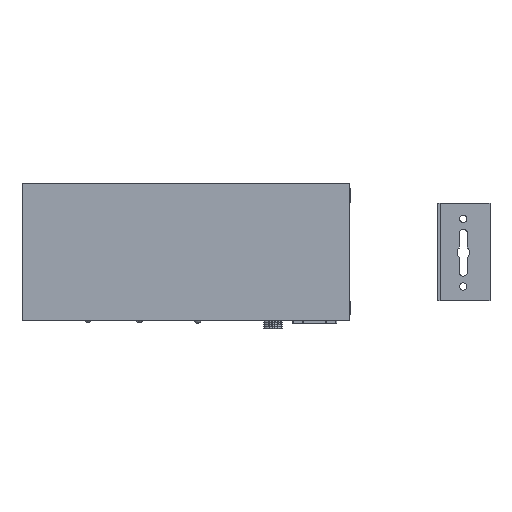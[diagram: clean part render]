
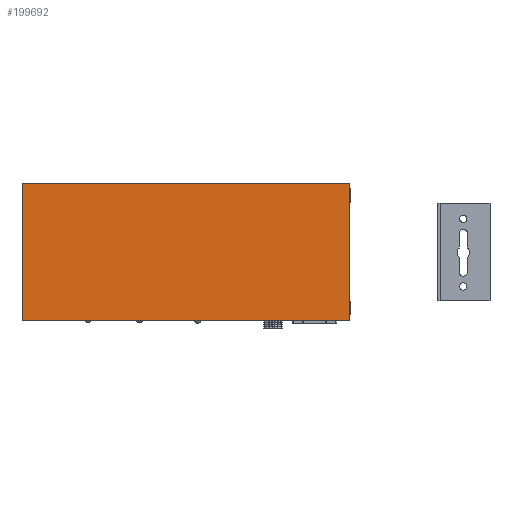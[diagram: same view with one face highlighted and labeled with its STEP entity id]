
A CAD part, top view. The second image highlights one B-rep face of the part: STEP entity #199692.
In plain terms, the highlighted planar face has unit normal (0, 0, 1).
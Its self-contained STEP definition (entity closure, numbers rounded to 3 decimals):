
#2731 = PLANE('',#2732);
#2732 = AXIS2_PLACEMENT_3D('',#2733,#2734,#2735);
#2733 = CARTESIAN_POINT('',(0.,0.,0.));
#2734 = DIRECTION('',(1.,0.,0.));
#2735 = DIRECTION('',(0.,0.,1.));
#4915 = PLANE('',#4916);
#4916 = AXIS2_PLACEMENT_3D('',#4917,#4918,#4919);
#4917 = CARTESIAN_POINT('',(134.1,0.,0.));
#4918 = DIRECTION('',(1.,0.,0.));
#4919 = DIRECTION('',(0.,0.,1.));
#56382 = PLANE('',#56383);
#56383 = AXIS2_PLACEMENT_3D('',#56384,#56385,#56386);
#56384 = CARTESIAN_POINT('',(67.05,0.,13.5));
#56385 = DIRECTION('',(-0.,-1.,-0.));
#56386 = DIRECTION('',(0.,0.,-1.));
#146020 = PLANE('',#146021);
#146021 = AXIS2_PLACEMENT_3D('',#146022,#146023,#146024);
#146022 = CARTESIAN_POINT('',(0.,56.2,0.));
#146023 = DIRECTION('',(0.,1.,0.));
#146024 = DIRECTION('',(0.,0.,1.));
#199312 = VERTEX_POINT('',#199313);
#199313 = CARTESIAN_POINT('',(0.,56.2,27.));
#199334 = EDGE_CURVE('',#199312,#199335,#199337,.T.);
#199335 = VERTEX_POINT('',#199336);
#199336 = CARTESIAN_POINT('',(134.1,56.2,27.));
#199337 = SURFACE_CURVE('',#199338,(#199342,#199349),.PCURVE_S1.);
#199338 = LINE('',#199339,#199340);
#199339 = CARTESIAN_POINT('',(0.,56.2,27.));
#199340 = VECTOR('',#199341,1.);
#199341 = DIRECTION('',(1.,0.,0.));
#199342 = PCURVE('',#146020,#199343);
#199343 = DEFINITIONAL_REPRESENTATION('',(#199344),#199348);
#199344 = LINE('',#199345,#199346);
#199345 = CARTESIAN_POINT('',(27.,0.));
#199346 = VECTOR('',#199347,1.);
#199347 = DIRECTION('',(0.,1.));
#199348 = ( GEOMETRIC_REPRESENTATION_CONTEXT(2) 
PARAMETRIC_REPRESENTATION_CONTEXT() REPRESENTATION_CONTEXT('2D SPACE',''
  ) );
#199349 = PCURVE('',#199350,#199355);
#199350 = PLANE('',#199351);
#199351 = AXIS2_PLACEMENT_3D('',#199352,#199353,#199354);
#199352 = CARTESIAN_POINT('',(0.,0.,27.));
#199353 = DIRECTION('',(0.,0.,1.));
#199354 = DIRECTION('',(1.,0.,0.));
#199355 = DEFINITIONAL_REPRESENTATION('',(#199356),#199360);
#199356 = LINE('',#199357,#199358);
#199357 = CARTESIAN_POINT('',(0.,56.2));
#199358 = VECTOR('',#199359,1.);
#199359 = DIRECTION('',(1.,0.));
#199360 = ( GEOMETRIC_REPRESENTATION_CONTEXT(2) 
PARAMETRIC_REPRESENTATION_CONTEXT() REPRESENTATION_CONTEXT('2D SPACE',''
  ) );
#199395 = EDGE_CURVE('',#199396,#199335,#199398,.T.);
#199396 = VERTEX_POINT('',#199397);
#199397 = CARTESIAN_POINT('',(134.1,0.,27.));
#199398 = SURFACE_CURVE('',#199399,(#199403,#199410),.PCURVE_S1.);
#199399 = LINE('',#199400,#199401);
#199400 = CARTESIAN_POINT('',(134.1,0.,27.));
#199401 = VECTOR('',#199402,1.);
#199402 = DIRECTION('',(0.,1.,0.));
#199403 = PCURVE('',#4915,#199404);
#199404 = DEFINITIONAL_REPRESENTATION('',(#199405),#199409);
#199405 = LINE('',#199406,#199407);
#199406 = CARTESIAN_POINT('',(27.,0.));
#199407 = VECTOR('',#199408,1.);
#199408 = DIRECTION('',(0.,-1.));
#199409 = ( GEOMETRIC_REPRESENTATION_CONTEXT(2) 
PARAMETRIC_REPRESENTATION_CONTEXT() REPRESENTATION_CONTEXT('2D SPACE',''
  ) );
#199410 = PCURVE('',#199350,#199411);
#199411 = DEFINITIONAL_REPRESENTATION('',(#199412),#199416);
#199412 = LINE('',#199413,#199414);
#199413 = CARTESIAN_POINT('',(134.1,0.));
#199414 = VECTOR('',#199415,1.);
#199415 = DIRECTION('',(0.,1.));
#199416 = ( GEOMETRIC_REPRESENTATION_CONTEXT(2) 
PARAMETRIC_REPRESENTATION_CONTEXT() REPRESENTATION_CONTEXT('2D SPACE',''
  ) );
#199692 = ADVANCED_FACE('',(#199693),#199350,.T.);
#199693 = FACE_BOUND('',#199694,.T.);
#199694 = EDGE_LOOP('',(#199695,#199718,#199739,#199740));
#199695 = ORIENTED_EDGE('',*,*,#199696,.F.);
#199696 = EDGE_CURVE('',#199697,#199312,#199699,.T.);
#199697 = VERTEX_POINT('',#199698);
#199698 = CARTESIAN_POINT('',(0.,0.,27.));
#199699 = SURFACE_CURVE('',#199700,(#199704,#199711),.PCURVE_S1.);
#199700 = LINE('',#199701,#199702);
#199701 = CARTESIAN_POINT('',(0.,0.,27.));
#199702 = VECTOR('',#199703,1.);
#199703 = DIRECTION('',(0.,1.,0.));
#199704 = PCURVE('',#199350,#199705);
#199705 = DEFINITIONAL_REPRESENTATION('',(#199706),#199710);
#199706 = LINE('',#199707,#199708);
#199707 = CARTESIAN_POINT('',(0.,0.));
#199708 = VECTOR('',#199709,1.);
#199709 = DIRECTION('',(0.,1.));
#199710 = ( GEOMETRIC_REPRESENTATION_CONTEXT(2) 
PARAMETRIC_REPRESENTATION_CONTEXT() REPRESENTATION_CONTEXT('2D SPACE',''
  ) );
#199711 = PCURVE('',#2731,#199712);
#199712 = DEFINITIONAL_REPRESENTATION('',(#199713),#199717);
#199713 = LINE('',#199714,#199715);
#199714 = CARTESIAN_POINT('',(27.,0.));
#199715 = VECTOR('',#199716,1.);
#199716 = DIRECTION('',(0.,-1.));
#199717 = ( GEOMETRIC_REPRESENTATION_CONTEXT(2) 
PARAMETRIC_REPRESENTATION_CONTEXT() REPRESENTATION_CONTEXT('2D SPACE',''
  ) );
#199718 = ORIENTED_EDGE('',*,*,#199719,.T.);
#199719 = EDGE_CURVE('',#199697,#199396,#199720,.T.);
#199720 = SURFACE_CURVE('',#199721,(#199725,#199732),.PCURVE_S1.);
#199721 = LINE('',#199722,#199723);
#199722 = CARTESIAN_POINT('',(0.,0.,27.));
#199723 = VECTOR('',#199724,1.);
#199724 = DIRECTION('',(1.,0.,0.));
#199725 = PCURVE('',#199350,#199726);
#199726 = DEFINITIONAL_REPRESENTATION('',(#199727),#199731);
#199727 = LINE('',#199728,#199729);
#199728 = CARTESIAN_POINT('',(0.,0.));
#199729 = VECTOR('',#199730,1.);
#199730 = DIRECTION('',(1.,0.));
#199731 = ( GEOMETRIC_REPRESENTATION_CONTEXT(2) 
PARAMETRIC_REPRESENTATION_CONTEXT() REPRESENTATION_CONTEXT('2D SPACE',''
  ) );
#199732 = PCURVE('',#56382,#199733);
#199733 = DEFINITIONAL_REPRESENTATION('',(#199734),#199738);
#199734 = LINE('',#199735,#199736);
#199735 = CARTESIAN_POINT('',(-13.5,-67.05));
#199736 = VECTOR('',#199737,1.);
#199737 = DIRECTION('',(0.,1.));
#199738 = ( GEOMETRIC_REPRESENTATION_CONTEXT(2) 
PARAMETRIC_REPRESENTATION_CONTEXT() REPRESENTATION_CONTEXT('2D SPACE',''
  ) );
#199739 = ORIENTED_EDGE('',*,*,#199395,.T.);
#199740 = ORIENTED_EDGE('',*,*,#199334,.F.);
